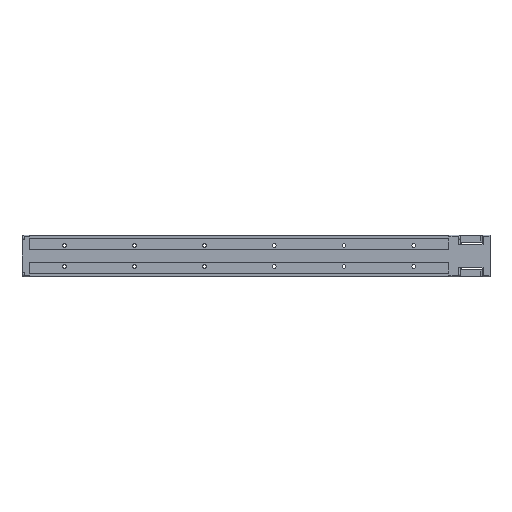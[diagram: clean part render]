
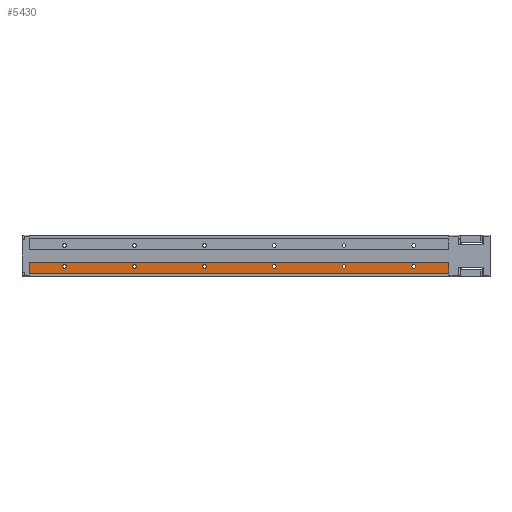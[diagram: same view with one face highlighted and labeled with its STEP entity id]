
A CAD part, front view. The second image highlights one B-rep face of the part: STEP entity #5430.
In plain terms, the highlighted planar face has unit normal (0, -1, 0).
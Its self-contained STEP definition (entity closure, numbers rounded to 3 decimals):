
#25 = EDGE_CURVE ( 'NONE', #2683, #6428, #7278, .T. ) ;
#192 = EDGE_CURVE ( 'NONE', #17779, #9540, #14755, .T. ) ;
#328 = DIRECTION ( 'NONE',  ( 0., 0., -1. ) ) ;
#564 = EDGE_CURVE ( 'NONE', #3909, #7705, #1967, .T. ) ;
#635 = EDGE_CURVE ( 'NONE', #7705, #16681, #1313, .T. ) ;
#658 = AXIS2_PLACEMENT_3D ( 'NONE', #8385, #10058, #4195 ) ;
#921 = FACE_BOUND ( 'NONE', #14008, .T. ) ;
#1106 = CARTESIAN_POINT ( 'NONE',  ( -200., -23., -15. ) ) ;
#1125 = AXIS2_PLACEMENT_3D ( 'NONE', #1106, #1225, #6604 ) ;
#1225 = DIRECTION ( 'NONE',  ( 0., 1., 0. ) ) ;
#1234 = CARTESIAN_POINT ( 'NONE',  ( 250., -23., -24.5 ) ) ;
#1313 = LINE ( 'NONE', #4740, #4619 ) ;
#1346 = FACE_BOUND ( 'NONE', #2864, .T. ) ;
#1407 = DIRECTION ( 'NONE',  ( 0., 1., 0. ) ) ;
#1545 = AXIS2_PLACEMENT_3D ( 'NONE', #11447, #1407, #12690 ) ;
#1762 = CIRCLE ( 'NONE', #3088, 2.75 ) ;
#1823 = CARTESIAN_POINT ( 'NONE',  ( 250., -23., -9.5 ) ) ;
#1967 = LINE ( 'NONE', #14417, #9463 ) ;
#2026 = CARTESIAN_POINT ( 'NONE',  ( -300., -23., -12.25 ) ) ;
#2035 = DIRECTION ( 'NONE',  ( 0., 0., 1. ) ) ;
#2050 = ORIENTED_EDGE ( 'NONE', *, *, #4906, .T. ) ;
#2057 = VERTEX_POINT ( 'NONE', #5127 ) ;
#2077 = ORIENTED_EDGE ( 'NONE', *, *, #12926, .T. ) ;
#2301 = CARTESIAN_POINT ( 'NONE',  ( -300., -23., -15. ) ) ;
#2335 = DIRECTION ( 'NONE',  ( 0., 1., 0. ) ) ;
#2366 = CARTESIAN_POINT ( 'NONE',  ( -300., -23., -15. ) ) ;
#2381 = CARTESIAN_POINT ( 'NONE',  ( 0., -23., -12.25 ) ) ;
#2683 = VERTEX_POINT ( 'NONE', #14009 ) ;
#2824 = ORIENTED_EDGE ( 'NONE', *, *, #635, .F. ) ;
#2864 = EDGE_LOOP ( 'NONE', ( #8292, #13279 ) ) ;
#2871 = CARTESIAN_POINT ( 'NONE',  ( 100., -23., -12.25 ) ) ;
#3088 = AXIS2_PLACEMENT_3D ( 'NONE', #3646, #6619, #17945 ) ;
#3198 = VERTEX_POINT ( 'NONE', #15187 ) ;
#3646 = CARTESIAN_POINT ( 'NONE',  ( -200., -23., -15. ) ) ;
#3799 = ORIENTED_EDGE ( 'NONE', *, *, #15464, .T. ) ;
#3851 = EDGE_CURVE ( 'NONE', #7069, #12063, #4919, .T. ) ;
#3909 = VERTEX_POINT ( 'NONE', #11401 ) ;
#4125 = DIRECTION ( 'NONE',  ( 0., 0., -1. ) ) ;
#4195 = DIRECTION ( 'NONE',  ( 0., 0., -1. ) ) ;
#4244 = CARTESIAN_POINT ( 'NONE',  ( -200., -23., -17.75 ) ) ;
#4250 = CARTESIAN_POINT ( 'NONE',  ( -350., -23., -9.5 ) ) ;
#4288 = DIRECTION ( 'NONE',  ( 0., 0., -1. ) ) ;
#4619 = VECTOR ( 'NONE', #4686, 1000. ) ;
#4686 = DIRECTION ( 'NONE',  ( 1., 0., 0. ) ) ;
#4707 = VERTEX_POINT ( 'NONE', #2381 ) ;
#4740 = CARTESIAN_POINT ( 'NONE',  ( 100., -23., -9.5 ) ) ;
#4755 = CARTESIAN_POINT ( 'NONE',  ( -100., -23., -15. ) ) ;
#4816 = EDGE_LOOP ( 'NONE', ( #6641, #3799 ) ) ;
#4906 = EDGE_CURVE ( 'NONE', #14295, #3198, #13512, .T. ) ;
#4919 = CIRCLE ( 'NONE', #658, 2.75 ) ;
#4951 = CARTESIAN_POINT ( 'NONE',  ( 200., -23., -15. ) ) ;
#4984 = DIRECTION ( 'NONE',  ( 0., 0., -1. ) ) ;
#5127 = CARTESIAN_POINT ( 'NONE',  ( 200., -23., -17.75 ) ) ;
#5139 = DIRECTION ( 'NONE',  ( 0., 1., 0. ) ) ;
#5189 = PLANE ( 'NONE',  #7068 ) ;
#5306 = ORIENTED_EDGE ( 'NONE', *, *, #13390, .T. ) ;
#5430 = ADVANCED_FACE ( 'NONE', ( #8854, #12391, #1346, #15899, #14564, #11705, #921 ), #5189, .T. ) ;
#5619 = ORIENTED_EDGE ( 'NONE', *, *, #17086, .T. ) ;
#5768 = VERTEX_POINT ( 'NONE', #14214 ) ;
#5994 = DIRECTION ( 'NONE',  ( 0., 0., 1. ) ) ;
#6196 = AXIS2_PLACEMENT_3D ( 'NONE', #14207, #9722, #4288 ) ;
#6428 = VERTEX_POINT ( 'NONE', #4244 ) ;
#6604 = DIRECTION ( 'NONE',  ( 0., 0., -1. ) ) ;
#6619 = DIRECTION ( 'NONE',  ( 0., 1., 0. ) ) ;
#6641 = ORIENTED_EDGE ( 'NONE', *, *, #192, .T. ) ;
#6923 = CARTESIAN_POINT ( 'NONE',  ( 0., -23., -15. ) ) ;
#7068 = AXIS2_PLACEMENT_3D ( 'NONE', #14842, #17643, #14963 ) ;
#7069 = VERTEX_POINT ( 'NONE', #2871 ) ;
#7198 = EDGE_CURVE ( 'NONE', #2057, #15694, #17853, .T. ) ;
#7227 = CARTESIAN_POINT ( 'NONE',  ( 100., -23., -15. ) ) ;
#7278 = CIRCLE ( 'NONE', #1125, 2.75 ) ;
#7332 = VECTOR ( 'NONE', #2035, 1000. ) ;
#7576 = CARTESIAN_POINT ( 'NONE',  ( 250., -23., -24.5 ) ) ;
#7621 = EDGE_CURVE ( 'NONE', #3909, #10851, #9016, .T. ) ;
#7705 = VERTEX_POINT ( 'NONE', #4250 ) ;
#7757 = DIRECTION ( 'NONE',  ( 0., 1., 0. ) ) ;
#7796 = AXIS2_PLACEMENT_3D ( 'NONE', #7227, #17347, #328 ) ;
#7926 = ORIENTED_EDGE ( 'NONE', *, *, #13407, .T. ) ;
#8040 = DIRECTION ( 'NONE',  ( 0., 1., 0. ) ) ;
#8292 = ORIENTED_EDGE ( 'NONE', *, *, #13223, .T. ) ;
#8385 = CARTESIAN_POINT ( 'NONE',  ( 100., -23., -15. ) ) ;
#8623 = ORIENTED_EDGE ( 'NONE', *, *, #14387, .T. ) ;
#8854 = FACE_OUTER_BOUND ( 'NONE', #15807, .T. ) ;
#9016 = LINE ( 'NONE', #17953, #16062 ) ;
#9463 = VECTOR ( 'NONE', #5994, 1000. ) ;
#9494 = DIRECTION ( 'NONE',  ( 1., 0., 0. ) ) ;
#9540 = VERTEX_POINT ( 'NONE', #13529 ) ;
#9722 = DIRECTION ( 'NONE',  ( 0., 1., 0. ) ) ;
#9827 = CIRCLE ( 'NONE', #9994, 2.75 ) ;
#9994 = AXIS2_PLACEMENT_3D ( 'NONE', #4755, #7757, #14611 ) ;
#10058 = DIRECTION ( 'NONE',  ( 0., 1., 0. ) ) ;
#10591 = CARTESIAN_POINT ( 'NONE',  ( 100., -23., -17.75 ) ) ;
#10638 = DIRECTION ( 'NONE',  ( 0., 0., -1. ) ) ;
#10851 = VERTEX_POINT ( 'NONE', #1234 ) ;
#10959 = AXIS2_PLACEMENT_3D ( 'NONE', #2366, #8040, #13776 ) ;
#11401 = CARTESIAN_POINT ( 'NONE',  ( -350., -23., -24.5 ) ) ;
#11447 = CARTESIAN_POINT ( 'NONE',  ( 200., -23., -15. ) ) ;
#11688 = AXIS2_PLACEMENT_3D ( 'NONE', #2301, #5139, #10638 ) ;
#11705 = FACE_BOUND ( 'NONE', #17744, .T. ) ;
#12063 = VERTEX_POINT ( 'NONE', #10591 ) ;
#12158 = ORIENTED_EDGE ( 'NONE', *, *, #7198, .T. ) ;
#12188 = EDGE_LOOP ( 'NONE', ( #16581, #2050 ) ) ;
#12391 = FACE_BOUND ( 'NONE', #12188, .T. ) ;
#12573 = DIRECTION ( 'NONE',  ( 0., 1., 0. ) ) ;
#12648 = EDGE_CURVE ( 'NONE', #3198, #14295, #13882, .T. ) ;
#12690 = DIRECTION ( 'NONE',  ( 0., 0., -1. ) ) ;
#12846 = AXIS2_PLACEMENT_3D ( 'NONE', #4951, #17542, #13264 ) ;
#12926 = EDGE_CURVE ( 'NONE', #12063, #7069, #18080, .T. ) ;
#13223 = EDGE_CURVE ( 'NONE', #6428, #2683, #1762, .T. ) ;
#13264 = DIRECTION ( 'NONE',  ( 0., 0., -1. ) ) ;
#13279 = ORIENTED_EDGE ( 'NONE', *, *, #25, .T. ) ;
#13357 = CARTESIAN_POINT ( 'NONE',  ( -100., -23., -17.75 ) ) ;
#13390 = EDGE_CURVE ( 'NONE', #5768, #4707, #15199, .T. ) ;
#13407 = EDGE_CURVE ( 'NONE', #15694, #2057, #17205, .T. ) ;
#13512 = CIRCLE ( 'NONE', #10959, 2.75 ) ;
#13529 = CARTESIAN_POINT ( 'NONE',  ( -100., -23., -12.25 ) ) ;
#13678 = ORIENTED_EDGE ( 'NONE', *, *, #564, .F. ) ;
#13776 = DIRECTION ( 'NONE',  ( 0., 0., -1. ) ) ;
#13843 = AXIS2_PLACEMENT_3D ( 'NONE', #6923, #12573, #4125 ) ;
#13882 = CIRCLE ( 'NONE', #11688, 2.75 ) ;
#14008 = EDGE_LOOP ( 'NONE', ( #12158, #7926 ) ) ;
#14009 = CARTESIAN_POINT ( 'NONE',  ( -200., -23., -12.25 ) ) ;
#14207 = CARTESIAN_POINT ( 'NONE',  ( -100., -23., -15. ) ) ;
#14214 = CARTESIAN_POINT ( 'NONE',  ( 0., -23., -17.75 ) ) ;
#14295 = VERTEX_POINT ( 'NONE', #2026 ) ;
#14387 = EDGE_CURVE ( 'NONE', #4707, #5768, #16271, .T. ) ;
#14417 = CARTESIAN_POINT ( 'NONE',  ( -350., -23., -12.25 ) ) ;
#14564 = FACE_BOUND ( 'NONE', #17822, .T. ) ;
#14611 = DIRECTION ( 'NONE',  ( 0., 0., -1. ) ) ;
#14657 = AXIS2_PLACEMENT_3D ( 'NONE', #14770, #2335, #4984 ) ;
#14755 = CIRCLE ( 'NONE', #6196, 2.75 ) ;
#14770 = CARTESIAN_POINT ( 'NONE',  ( 0., -23., -15. ) ) ;
#14816 = LINE ( 'NONE', #7576, #7332 ) ;
#14842 = CARTESIAN_POINT ( 'NONE',  ( 250., -23., -24.5 ) ) ;
#14963 = DIRECTION ( 'NONE',  ( -1., 0., 0. ) ) ;
#15187 = CARTESIAN_POINT ( 'NONE',  ( -300., -23., -17.75 ) ) ;
#15199 = CIRCLE ( 'NONE', #13843, 2.75 ) ;
#15274 = CARTESIAN_POINT ( 'NONE',  ( 200., -23., -12.25 ) ) ;
#15422 = ORIENTED_EDGE ( 'NONE', *, *, #7621, .T. ) ;
#15464 = EDGE_CURVE ( 'NONE', #9540, #17779, #9827, .T. ) ;
#15694 = VERTEX_POINT ( 'NONE', #15274 ) ;
#15807 = EDGE_LOOP ( 'NONE', ( #13678, #15422, #5619, #2824 ) ) ;
#15899 = FACE_BOUND ( 'NONE', #4816, .T. ) ;
#16062 = VECTOR ( 'NONE', #9494, 1000. ) ;
#16271 = CIRCLE ( 'NONE', #14657, 2.75 ) ;
#16465 = ORIENTED_EDGE ( 'NONE', *, *, #3851, .T. ) ;
#16581 = ORIENTED_EDGE ( 'NONE', *, *, #12648, .T. ) ;
#16681 = VERTEX_POINT ( 'NONE', #1823 ) ;
#17086 = EDGE_CURVE ( 'NONE', #10851, #16681, #14816, .T. ) ;
#17205 = CIRCLE ( 'NONE', #1545, 2.75 ) ;
#17347 = DIRECTION ( 'NONE',  ( 0., 1., 0. ) ) ;
#17542 = DIRECTION ( 'NONE',  ( 0., 1., 0. ) ) ;
#17643 = DIRECTION ( 'NONE',  ( 0., -1., 0. ) ) ;
#17744 = EDGE_LOOP ( 'NONE', ( #2077, #16465 ) ) ;
#17779 = VERTEX_POINT ( 'NONE', #13357 ) ;
#17822 = EDGE_LOOP ( 'NONE', ( #5306, #8623 ) ) ;
#17853 = CIRCLE ( 'NONE', #12846, 2.75 ) ;
#17945 = DIRECTION ( 'NONE',  ( 0., 0., -1. ) ) ;
#17953 = CARTESIAN_POINT ( 'NONE',  ( 100., -23., -24.5 ) ) ;
#18080 = CIRCLE ( 'NONE', #7796, 2.75 ) ;
